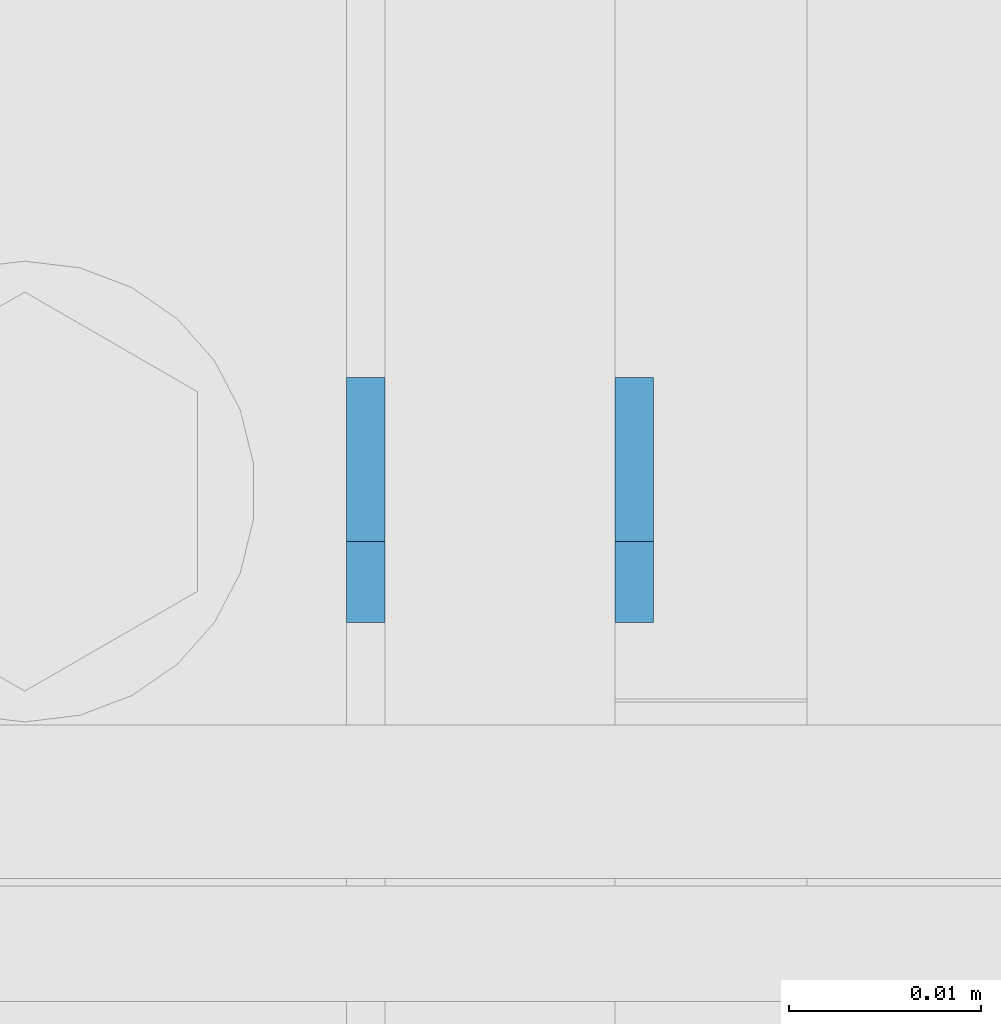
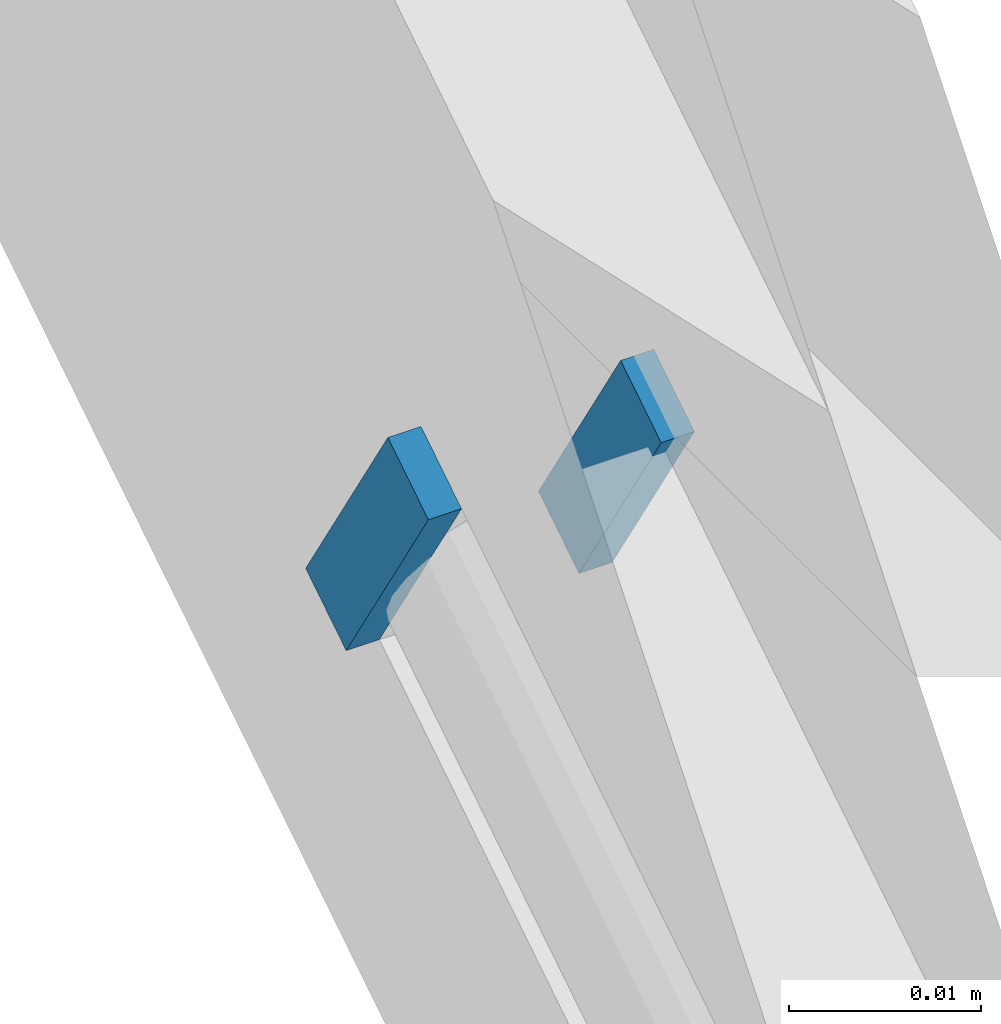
# One storey, part 215 of 271: 2 plates, 1 element without a shape of its own.
"""IFC2X3 building model written with IfcOpenShell, lengths in millimetres."""

from ifc_helpers import new_model, si_unit, frame, origin_with_axes, place, context, subcontext, project, spatial, polyline, outline, extrude, material, type_object, element, aggregate, save


model = new_model("IFC2X3")

# Units and contexts
model_context = context("Model", 3, precision=1e-05, world=origin_with_axes())
body_context = subcontext(model_context, "Body", "Model", "MODEL_VIEW")
ifc_project = project(units=[si_unit("LENGTHUNIT", "METRE", prefix="MILLI"), si_unit("AREAUNIT", "SQUARE_METRE"), si_unit("VOLUMEUNIT", "CUBIC_METRE"), si_unit("MASSUNIT", "GRAM", prefix="KILO"), si_unit("TIMEUNIT", "SECOND"), si_unit("PLANEANGLEUNIT", "RADIAN"), si_unit("SOLIDANGLEUNIT", "STERADIAN"), si_unit("THERMODYNAMICTEMPERATUREUNIT", "DEGREE_CELSIUS"), si_unit("LUMINOUSINTENSITYUNIT", "LUMEN")], contexts=[model_context])

# Site, building, storey
site_placement = place(None, origin_with_axes())
site = spatial("IfcSite", under=ifc_project, at=site_placement, Name="Undefined", CompositionType="ELEMENT")
building_placement = place(site_placement, origin_with_axes())
building = spatial("IfcBuilding", under=site, at=building_placement, Name="Undefined", CompositionType="ELEMENT")
storey_placement = place(building_placement, origin_with_axes())
storey = spatial("IfcBuildingStorey", under=building, at=storey_placement, Name="Undefined", CompositionType="ELEMENT", Elevation=0.0)

# Assembly, plates
assembly_placement = place(storey_placement, origin_with_axes())
assembly = element("IfcElementAssembly", 1, at=assembly_placement, inside=storey, AssemblyPlace="NOTDEFINED", PredefinedType="RIGID_FRAME")
ifc_material = material(Name="STEEL/S355JR")
plate_type = type_object("IfcPlateType", Name="BL5*2", PredefinedType="NOTDEFINED")
plate_1_placement = place(assembly_placement, frame((12591.7513748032, 4167.84146877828, 1247.60274321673), z_axis=(0.0, -0.844771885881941, -0.535126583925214), x_axis=(0.0, -0.535126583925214, 0.844771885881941)))
plate_1 = element("IfcPlate", 2, at=plate_1_placement, type_object=plate_type, material=ifc_material, Name="BLACHA", ObjectType="BL5*2", context=body_context, shape_type="SweptSolid", body=[
    extrude(outline(polyline([(0.0, 0.0), (15.9999980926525, -7.67386154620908e-13), (15.9999980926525, 1.99999964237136), (0.0, 1.99999964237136), (0.0, 0.0)])), frame((0.0, 0.0, -2.5), z_axis=(0.0, 0.0, 1.0), x_axis=(1.0, 0.0, 0.0)), (0.0, 0.0, 1.0), 5.0),
])
plate_2_placement = place(assembly_placement, frame((12605.751374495, 4167.84146877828, 1247.60274321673), z_axis=(0.0, -0.844771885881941, -0.535126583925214), x_axis=(0.0, -0.535126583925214, 0.844771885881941)))
plate_2 = element("IfcPlate", 3, at=plate_2_placement, type_object=plate_type, material=ifc_material, Name="BLACHA", ObjectType="BL5*2", context=body_context, shape_type="SweptSolid", body=[
    extrude(outline(polyline([(0.0, 0.0), (15.9999980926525, -7.67386154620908e-13), (15.9999980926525, 1.99999964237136), (0.0, 1.99999964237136), (0.0, 0.0)])), frame((0.0, 0.0, -2.5), z_axis=(0.0, 0.0, 1.0), x_axis=(1.0, 0.0, 0.0)), (0.0, 0.0, 1.0), 5.0),
])
aggregate(assembly, [plate_1, plate_2])

save(model, "model.ifc")
